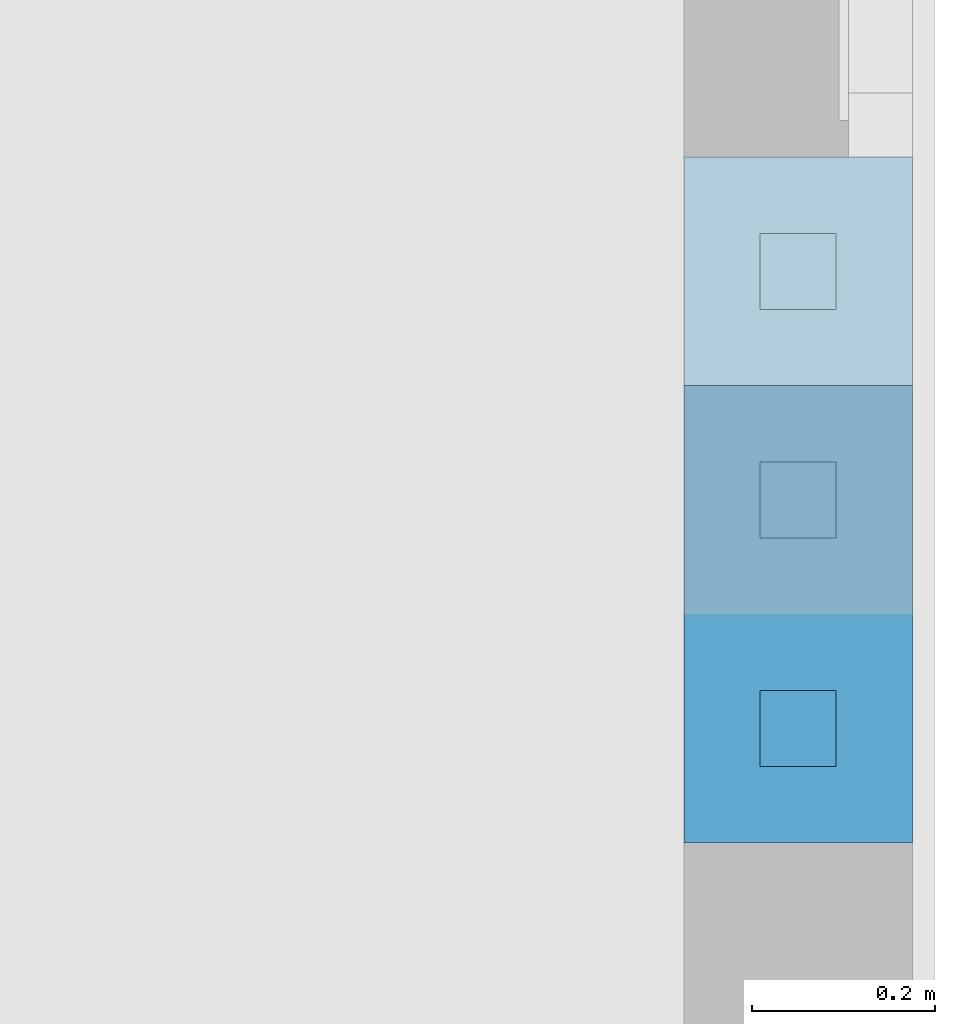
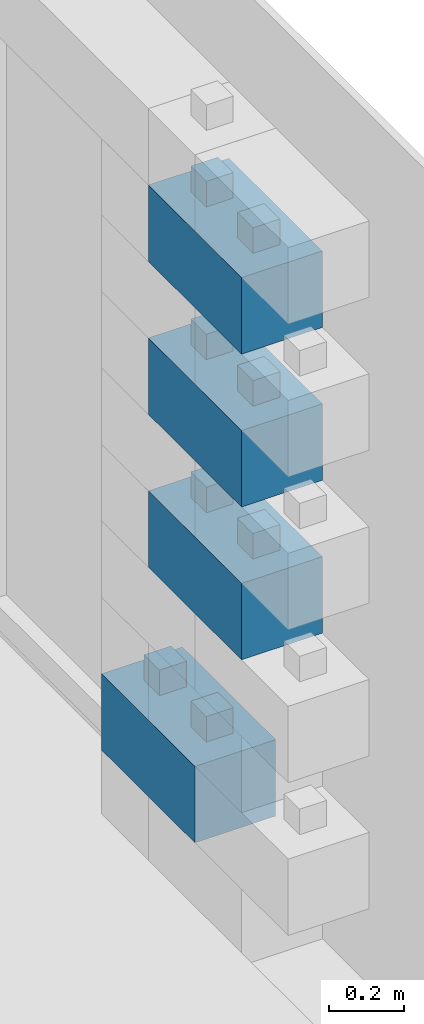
# One storey, part 3 of 8: 4 walls.
"""IFC4 building model written with IfcOpenShell, lengths in centimetres."""

from ifc_helpers import new_model, entity, si_unit, converted_unit, direction, frame, origin, place, context, subcontext, project, spatial, indexed_curve, outline, extrude, material, type_object, element, save


model = new_model("IFC4")

# Units and contexts
model_context = context("Model", 3, precision=0.001, world=origin(), true_north=direction((0.0, 1.0)))
body_context = subcontext(model_context, "Body", "Model", "MODEL_VIEW")
ifc_project = project(units=[si_unit("LENGTHUNIT", "METRE", prefix="CENTI"), si_unit("AREAUNIT", "SQUARE_METRE"), si_unit("VOLUMEUNIT", "CUBIC_METRE"), converted_unit("PLANEANGLEUNIT", "DEGREE", entity("IfcPlaneAngleMeasure", 0.017453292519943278), si_unit("PLANEANGLEUNIT", "RADIAN"), dimensions=[0, 0, 0, 0, 0, 0, 0])], contexts=[model_context])

# Site, building, storey
site_placement = place(None, origin())
site = spatial("IfcSite", under=ifc_project, at=site_placement, Name="Default", CompositionType="ELEMENT")
building_placement = place(site_placement, origin())
building = spatial("IfcBuilding", under=site, at=building_placement, CompositionType="ELEMENT")
storey_placement = place(building_placement, frame((0.0, 0.0, -4.0)))
storey = spatial("IfcBuildingStorey", under=building, at=storey_placement, Name="L00__ABOVE Slab", CompositionType="ELEMENT", Elevation=-4.000000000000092)

# Walls
ifc_material = material(Name="Miscellaneous__Timber Block__Triqbriq, X", Category="Miscellaneous")
wall_type = type_object("IfcWallType", Name="Columns : wll_s__TIMBER BLOCK__Triqbriq, Full Width__wp : WS25", PredefinedType="SOLIDWALL", material=ifc_material)
wall_1_placement = place(storey_placement, frame((3156.828914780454, 2253.5200309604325, 25.0), z_axis=(0.0, 0.0, 1.0), x_axis=(0.0, 1.0, 0.0)))
element("IfcWall", 1, at=wall_1_placement, inside=storey, type_object=wall_type, material=ifc_material, Name="Columns : wll_s__TIMBER BLOCK__Triqbriq, Full Width__wp : WS25", PredefinedType="SOLIDWALL", context=body_context, shape_type="SweptSolid", body=[
    extrude(outline(indexed_curve([(-4.166666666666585, -4.166666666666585), (4.166666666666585, -4.166666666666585), (4.166666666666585, 4.166666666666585), (-4.166666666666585, 4.166666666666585), (-4.166666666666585, -4.166666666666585)], self_intersect=False)), frame((12.500000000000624, -12.500000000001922, 16.66666666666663)), (0.0, 0.0, 1.0), 16.666666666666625),
    extrude(outline(indexed_curve([(-4.166666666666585, -4.166666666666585), (4.166666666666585, -4.166666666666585), (4.166666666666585, 4.166666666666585), (-4.166666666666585, 4.166666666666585), (-4.166666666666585, -4.166666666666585)], self_intersect=False)), frame((37.50000000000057, -12.500000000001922, 16.66666666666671)), (0.0, 0.0, 1.0), 16.666666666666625),
    extrude(outline(indexed_curve([(-4.166666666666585, -4.166666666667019), (4.166666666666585, -4.166666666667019), (4.166666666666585, 4.166666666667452), (-4.166666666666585, 4.166666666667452), (-4.166666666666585, -4.166666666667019)], self_intersect=False)), frame((4.166666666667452, -4.166666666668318, 8.33333333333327)), (0.0, 0.0, 1.0), 8.333333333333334),
    extrude(outline(indexed_curve([(-4.166666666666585, -4.166666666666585), (4.166666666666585, -4.166666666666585), (4.166666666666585, 4.166666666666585), (-4.166666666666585, 4.166666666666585), (-4.166666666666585, -4.166666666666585)], self_intersect=False)), frame((4.166666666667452, -20.833333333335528, 8.33333333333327)), (0.0, 0.0, 1.0), 8.333333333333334),
    extrude(outline(indexed_curve([(-4.166666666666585, -4.166666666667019), (4.166666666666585, -4.166666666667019), (4.166666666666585, 4.166666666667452), (-4.166666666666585, 4.166666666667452), (-4.166666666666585, -4.166666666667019)], self_intersect=False)), frame((45.833333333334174, -4.166666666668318, 8.333333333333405)), (0.0, 0.0, 1.0), 8.333333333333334),
    extrude(outline(indexed_curve([(-4.166666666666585, -4.166666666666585), (4.166666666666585, -4.166666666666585), (4.166666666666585, 4.166666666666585), (-4.166666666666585, 4.166666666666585), (-4.166666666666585, -4.166666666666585)], self_intersect=False)), frame((45.833333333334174, -20.833333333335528, 8.333333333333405)), (0.0, 0.0, 1.0), 8.333333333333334),
    extrude(outline(indexed_curve([(-8.333333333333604, -4.166666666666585), (8.33333333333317, -4.166666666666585), (8.33333333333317, 4.166666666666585), (-8.333333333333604, 4.166666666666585), (-8.333333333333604, -4.166666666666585)], self_intersect=False)), frame((25.0, -20.833333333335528, 8.333333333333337)), (0.0, 0.0, 1.0), 8.333333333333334),
    extrude(outline(indexed_curve([(-8.333333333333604, -4.166666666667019), (8.33333333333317, -4.166666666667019), (8.33333333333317, 4.166666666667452), (-8.333333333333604, 4.166666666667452), (-8.333333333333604, -4.166666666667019)], self_intersect=False)), frame((25.0, -4.166666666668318, 8.333333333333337)), (0.0, 0.0, 1.0), 8.333333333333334),
    extrude(outline(indexed_curve([(-24.999999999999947, -4.166666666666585), (24.999999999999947, -4.166666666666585), (24.999999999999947, 4.166666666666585), (-24.999999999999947, 4.166666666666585), (-24.999999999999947, -4.166666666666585)], self_intersect=False)), frame((25.0, -12.500000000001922, 8.333333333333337)), (0.0, 0.0, 1.0), 8.333333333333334),
    extrude(outline(indexed_curve([(-4.166666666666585, -12.50000000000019), (4.166666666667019, -12.50000000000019), (4.166666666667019, 12.500000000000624), (-4.166666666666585, 12.500000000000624), (-4.166666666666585, -12.50000000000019)], self_intersect=False)), frame((20.83333333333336, -12.500000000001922, 0.0)), (0.0, 0.0, 1.0), 8.333333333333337),
    extrude(outline(indexed_curve([(-4.166666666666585, -12.50000000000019), (4.166666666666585, -12.50000000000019), (4.166666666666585, 12.500000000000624), (-4.166666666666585, 12.500000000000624), (-4.166666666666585, -12.50000000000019)], self_intersect=False)), frame((29.166666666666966, -12.500000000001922, 0.0)), (0.0, 0.0, 1.0), 8.333333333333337),
    extrude(outline(indexed_curve([(-4.166666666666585, -12.50000000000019), (4.166666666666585, -12.50000000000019), (4.166666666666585, 12.500000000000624), (-4.166666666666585, 12.500000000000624), (-4.166666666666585, -12.50000000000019)], self_intersect=False)), frame((4.166666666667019, -12.500000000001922, 0.0)), (0.0, 0.0, 1.0), 8.333333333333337),
    extrude(outline(indexed_curve([(-4.166666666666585, -12.50000000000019), (4.166666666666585, -12.50000000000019), (4.166666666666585, 12.500000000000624), (-4.166666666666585, 12.500000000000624), (-4.166666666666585, -12.50000000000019)], self_intersect=False)), frame((45.83333333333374, -12.500000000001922, 0.0)), (0.0, 0.0, 1.0), 8.333333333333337),
    extrude(outline(indexed_curve([(-4.166666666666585, -4.166666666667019), (4.166666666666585, -4.166666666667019), (4.166666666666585, 4.166666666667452), (-4.166666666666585, 4.166666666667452), (-4.166666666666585, -4.166666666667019)], self_intersect=False)), frame((12.50000000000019, -4.166666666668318, 0.0)), (0.0, 0.0, 1.0), 24.99999999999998),
    extrude(outline(indexed_curve([(-4.166666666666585, -4.166666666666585), (4.166666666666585, -4.166666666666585), (4.166666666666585, 4.166666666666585), (-4.166666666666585, 4.166666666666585), (-4.166666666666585, -4.166666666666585)], self_intersect=False)), frame((12.50000000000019, -20.833333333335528, 0.0)), (0.0, 0.0, 1.0), 24.99999999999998),
    extrude(outline(indexed_curve([(-4.166666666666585, -4.166666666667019), (4.166666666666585, -4.166666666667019), (4.166666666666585, 4.166666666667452), (-4.166666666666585, 4.166666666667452), (-4.166666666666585, -4.166666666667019)], self_intersect=False)), frame((37.500000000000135, -4.166666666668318, 0.0)), (0.0, 0.0, 1.0), 24.99999999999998),
    extrude(outline(indexed_curve([(-4.166666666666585, -4.166666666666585), (4.166666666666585, -4.166666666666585), (4.166666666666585, 4.166666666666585), (-4.166666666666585, 4.166666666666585), (-4.166666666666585, -4.166666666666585)], self_intersect=False)), frame((37.500000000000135, -20.833333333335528, 0.0)), (0.0, 0.0, 1.0), 24.99999999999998),
    extrude(outline(indexed_curve([(-4.166666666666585, -12.50000000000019), (4.166666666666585, -12.50000000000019), (4.166666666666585, 12.500000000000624), (-4.166666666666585, 12.500000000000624), (-4.166666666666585, -12.50000000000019)], self_intersect=False)), frame((4.166666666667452, -12.500000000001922, 16.666666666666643)), (0.0, 0.0, 1.0), 8.333333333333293),
    extrude(outline(indexed_curve([(-4.166666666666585, -12.50000000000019), (4.166666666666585, -12.50000000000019), (4.166666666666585, 12.500000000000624), (-4.166666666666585, 12.500000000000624), (-4.166666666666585, -12.50000000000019)], self_intersect=False)), frame((20.833333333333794, -12.500000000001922, 16.666666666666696)), (0.0, 0.0, 1.0), 8.333333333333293),
    extrude(outline(indexed_curve([(-4.166666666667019, -12.50000000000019), (4.166666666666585, -12.50000000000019), (4.166666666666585, 12.500000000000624), (-4.166666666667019, 12.500000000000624), (-4.166666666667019, -12.50000000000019)], self_intersect=False)), frame((29.1666666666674, -12.500000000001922, 16.666666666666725)), (0.0, 0.0, 1.0), 8.333333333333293),
    extrude(outline(indexed_curve([(-4.166666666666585, -12.50000000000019), (4.166666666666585, -12.50000000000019), (4.166666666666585, 12.500000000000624), (-4.166666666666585, 12.500000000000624), (-4.166666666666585, -12.50000000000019)], self_intersect=False)), frame((45.833333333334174, -12.500000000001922, 16.666666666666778)), (0.0, 0.0, 1.0), 8.333333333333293),
])
wall_2_placement = place(storey_placement, frame((3156.828914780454, 2228.52003096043, 200.0), z_axis=(0.0, 0.0, 1.0), x_axis=(0.0, 1.0, 0.0)))
element("IfcWall", 2, at=wall_2_placement, inside=storey, type_object=wall_type, material=ifc_material, Name="Columns : wll_s__TIMBER BLOCK__Triqbriq, Full Width__wp : WS25", PredefinedType="SOLIDWALL", context=body_context, shape_type="SweptSolid", body=[
    extrude(outline(indexed_curve([(-4.166666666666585, -4.166666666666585), (4.166666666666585, -4.166666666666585), (4.166666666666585, 4.166666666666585), (-4.166666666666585, 4.166666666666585), (-4.166666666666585, -4.166666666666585)], self_intersect=False)), frame((12.500000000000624, -12.500000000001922, 16.666666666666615)), (0.0, 0.0, 1.0), 16.66666666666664),
    extrude(outline(indexed_curve([(-4.166666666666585, -4.166666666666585), (4.166666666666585, -4.166666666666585), (4.166666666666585, 4.166666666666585), (-4.166666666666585, 4.166666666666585), (-4.166666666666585, -4.166666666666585)], self_intersect=False)), frame((37.50000000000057, -12.500000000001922, 16.66666666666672)), (0.0, 0.0, 1.0), 16.66666666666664),
    extrude(outline(indexed_curve([(-4.166666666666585, -4.166666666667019), (4.166666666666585, -4.166666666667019), (4.166666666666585, 4.166666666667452), (-4.166666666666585, 4.166666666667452), (-4.166666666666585, -4.166666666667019)], self_intersect=False)), frame((4.166666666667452, -4.166666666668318, 8.333333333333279)), (0.0, 0.0, 1.0), 8.333333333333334),
    extrude(outline(indexed_curve([(-4.166666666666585, -4.166666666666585), (4.166666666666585, -4.166666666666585), (4.166666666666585, 4.166666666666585), (-4.166666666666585, 4.166666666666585), (-4.166666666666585, -4.166666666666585)], self_intersect=False)), frame((4.166666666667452, -20.833333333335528, 8.333333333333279)), (0.0, 0.0, 1.0), 8.333333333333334),
    extrude(outline(indexed_curve([(-4.166666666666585, -4.166666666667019), (4.166666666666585, -4.166666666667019), (4.166666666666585, 4.166666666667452), (-4.166666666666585, 4.166666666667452), (-4.166666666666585, -4.166666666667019)], self_intersect=False)), frame((45.833333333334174, -4.166666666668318, 8.333333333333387)), (0.0, 0.0, 1.0), 8.333333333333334),
    extrude(outline(indexed_curve([(-4.166666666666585, -4.166666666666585), (4.166666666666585, -4.166666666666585), (4.166666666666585, 4.166666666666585), (-4.166666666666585, 4.166666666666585), (-4.166666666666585, -4.166666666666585)], self_intersect=False)), frame((45.833333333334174, -20.833333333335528, 8.333333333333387)), (0.0, 0.0, 1.0), 8.333333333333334),
    extrude(outline(indexed_curve([(-8.33333333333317, -4.166666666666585), (8.333333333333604, -4.166666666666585), (8.333333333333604, 4.166666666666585), (-8.33333333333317, 4.166666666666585), (-8.33333333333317, -4.166666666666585)], self_intersect=False)), frame((25.0, -20.833333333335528, 8.333333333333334)), (0.0, 0.0, 1.0), 8.333333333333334),
    extrude(outline(indexed_curve([(-8.33333333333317, -4.166666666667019), (8.333333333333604, -4.166666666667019), (8.333333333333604, 4.166666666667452), (-8.33333333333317, 4.166666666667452), (-8.33333333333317, -4.166666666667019)], self_intersect=False)), frame((25.0, -4.166666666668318, 8.333333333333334)), (0.0, 0.0, 1.0), 8.333333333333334),
    extrude(outline(indexed_curve([(-24.999999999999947, -4.166666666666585), (24.999999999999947, -4.166666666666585), (24.999999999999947, 4.166666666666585), (-24.999999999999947, 4.166666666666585), (-24.999999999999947, -4.166666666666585)], self_intersect=False)), frame((25.0, -12.500000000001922, 8.333333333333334)), (0.0, 0.0, 1.0), 8.333333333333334),
    extrude(outline(indexed_curve([(-4.166666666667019, -12.50000000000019), (4.166666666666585, -12.50000000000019), (4.166666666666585, 12.500000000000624), (-4.166666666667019, 12.500000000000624), (-4.166666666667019, -12.50000000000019)], self_intersect=False)), frame((20.833333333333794, -12.500000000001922, 0.0)), (0.0, 0.0, 1.0), 8.333333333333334),
    extrude(outline(indexed_curve([(-4.166666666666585, -12.50000000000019), (4.166666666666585, -12.50000000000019), (4.166666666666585, 12.500000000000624), (-4.166666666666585, 12.500000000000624), (-4.166666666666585, -12.50000000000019)], self_intersect=False)), frame((29.166666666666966, -12.500000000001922, 0.0)), (0.0, 0.0, 1.0), 8.333333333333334),
    extrude(outline(indexed_curve([(-4.166666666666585, -12.50000000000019), (4.166666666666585, -12.50000000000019), (4.166666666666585, 12.500000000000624), (-4.166666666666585, 12.500000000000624), (-4.166666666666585, -12.50000000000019)], self_intersect=False)), frame((4.166666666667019, -12.500000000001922, 0.0)), (0.0, 0.0, 1.0), 8.333333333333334),
    extrude(outline(indexed_curve([(-4.166666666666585, -12.50000000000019), (4.166666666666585, -12.50000000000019), (4.166666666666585, 12.500000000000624), (-4.166666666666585, 12.500000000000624), (-4.166666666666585, -12.50000000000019)], self_intersect=False)), frame((45.83333333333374, -12.500000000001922, 0.0)), (0.0, 0.0, 1.0), 8.333333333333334),
    extrude(outline(indexed_curve([(-4.166666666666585, -4.166666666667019), (4.166666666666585, -4.166666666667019), (4.166666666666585, 4.166666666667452), (-4.166666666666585, 4.166666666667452), (-4.166666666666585, -4.166666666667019)], self_intersect=False)), frame((12.50000000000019, -4.166666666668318, 0.0)), (0.0, 0.0, 1.0), 24.999999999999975),
    extrude(outline(indexed_curve([(-4.166666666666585, -4.166666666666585), (4.166666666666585, -4.166666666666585), (4.166666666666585, 4.166666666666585), (-4.166666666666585, 4.166666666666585), (-4.166666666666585, -4.166666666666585)], self_intersect=False)), frame((12.50000000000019, -20.833333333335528, 0.0)), (0.0, 0.0, 1.0), 24.999999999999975),
    extrude(outline(indexed_curve([(-4.166666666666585, -4.166666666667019), (4.166666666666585, -4.166666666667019), (4.166666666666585, 4.166666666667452), (-4.166666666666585, 4.166666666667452), (-4.166666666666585, -4.166666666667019)], self_intersect=False)), frame((37.500000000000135, -4.166666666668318, 0.0)), (0.0, 0.0, 1.0), 24.999999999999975),
    extrude(outline(indexed_curve([(-4.166666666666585, -4.166666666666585), (4.166666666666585, -4.166666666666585), (4.166666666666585, 4.166666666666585), (-4.166666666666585, 4.166666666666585), (-4.166666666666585, -4.166666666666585)], self_intersect=False)), frame((37.500000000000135, -20.833333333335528, 0.0)), (0.0, 0.0, 1.0), 24.999999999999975),
    extrude(outline(indexed_curve([(-4.166666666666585, -12.50000000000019), (4.166666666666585, -12.50000000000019), (4.166666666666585, 12.500000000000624), (-4.166666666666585, 12.500000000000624), (-4.166666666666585, -12.50000000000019)], self_intersect=False)), frame((4.166666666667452, -12.500000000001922, 16.666666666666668)), (0.0, 0.0, 1.0), 8.333333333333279),
    extrude(outline(indexed_curve([(-4.166666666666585, -12.50000000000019), (4.166666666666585, -12.50000000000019), (4.166666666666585, 12.500000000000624), (-4.166666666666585, 12.500000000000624), (-4.166666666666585, -12.50000000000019)], self_intersect=False)), frame((20.833333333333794, -12.500000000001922, 16.66666666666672)), (0.0, 0.0, 1.0), 8.333333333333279),
    extrude(outline(indexed_curve([(-4.166666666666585, -12.50000000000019), (4.166666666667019, -12.50000000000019), (4.166666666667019, 12.500000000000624), (-4.166666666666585, 12.500000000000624), (-4.166666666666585, -12.50000000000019)], self_intersect=False)), frame((29.166666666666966, -12.500000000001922, 16.66666666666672)), (0.0, 0.0, 1.0), 8.333333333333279),
    extrude(outline(indexed_curve([(-4.166666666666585, -12.50000000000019), (4.166666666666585, -12.50000000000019), (4.166666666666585, 12.500000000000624), (-4.166666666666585, 12.500000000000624), (-4.166666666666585, -12.50000000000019)], self_intersect=False)), frame((45.833333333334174, -12.500000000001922, 16.666666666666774)), (0.0, 0.0, 1.0), 8.333333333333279),
])
wall_3_placement = place(storey_placement, frame((3156.8289147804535, 2228.52003096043, 150.0), z_axis=(0.0, 0.0, 1.0), x_axis=(0.0, 1.0, 0.0)))
element("IfcWall", 3, at=wall_3_placement, inside=storey, type_object=wall_type, material=ifc_material, Name="Columns : wll_s__TIMBER BLOCK__Triqbriq, Full Width__wp : WS25", PredefinedType="SOLIDWALL", context=body_context, shape_type="SweptSolid", body=[
    extrude(outline(indexed_curve([(-4.166666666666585, -4.166666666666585), (4.166666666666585, -4.166666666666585), (4.166666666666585, 4.166666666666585), (-4.166666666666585, 4.166666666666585), (-4.166666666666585, -4.166666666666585)], self_intersect=False)), frame((12.500000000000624, -12.500000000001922, 16.666666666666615)), (0.0, 0.0, 1.0), 16.66666666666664),
    extrude(outline(indexed_curve([(-4.166666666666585, -4.166666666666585), (4.166666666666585, -4.166666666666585), (4.166666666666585, 4.166666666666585), (-4.166666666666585, 4.166666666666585), (-4.166666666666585, -4.166666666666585)], self_intersect=False)), frame((37.50000000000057, -12.500000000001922, 16.66666666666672)), (0.0, 0.0, 1.0), 16.66666666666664),
    extrude(outline(indexed_curve([(-4.166666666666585, -4.166666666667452), (4.166666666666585, -4.166666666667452), (4.166666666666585, 4.166666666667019), (-4.166666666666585, 4.166666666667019), (-4.166666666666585, -4.166666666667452)], self_intersect=False)), frame((4.166666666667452, -4.166666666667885, 8.333333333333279)), (0.0, 0.0, 1.0), 8.333333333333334),
    extrude(outline(indexed_curve([(-4.166666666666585, -4.166666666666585), (4.166666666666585, -4.166666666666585), (4.166666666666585, 4.166666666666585), (-4.166666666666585, 4.166666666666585), (-4.166666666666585, -4.166666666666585)], self_intersect=False)), frame((4.166666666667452, -20.833333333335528, 8.333333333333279)), (0.0, 0.0, 1.0), 8.333333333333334),
    extrude(outline(indexed_curve([(-4.166666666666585, -4.166666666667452), (4.166666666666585, -4.166666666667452), (4.166666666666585, 4.166666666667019), (-4.166666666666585, 4.166666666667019), (-4.166666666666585, -4.166666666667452)], self_intersect=False)), frame((45.833333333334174, -4.166666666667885, 8.333333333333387)), (0.0, 0.0, 1.0), 8.333333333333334),
    extrude(outline(indexed_curve([(-4.166666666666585, -4.166666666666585), (4.166666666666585, -4.166666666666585), (4.166666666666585, 4.166666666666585), (-4.166666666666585, 4.166666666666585), (-4.166666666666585, -4.166666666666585)], self_intersect=False)), frame((45.833333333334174, -20.833333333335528, 8.333333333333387)), (0.0, 0.0, 1.0), 8.333333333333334),
    extrude(outline(indexed_curve([(-8.33333333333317, -4.166666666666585), (8.333333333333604, -4.166666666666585), (8.333333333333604, 4.166666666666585), (-8.33333333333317, 4.166666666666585), (-8.33333333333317, -4.166666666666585)], self_intersect=False)), frame((25.0, -20.833333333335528, 8.333333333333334)), (0.0, 0.0, 1.0), 8.333333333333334),
    extrude(outline(indexed_curve([(-8.33333333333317, -4.166666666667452), (8.333333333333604, -4.166666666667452), (8.333333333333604, 4.166666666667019), (-8.33333333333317, 4.166666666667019), (-8.33333333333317, -4.166666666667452)], self_intersect=False)), frame((25.0, -4.166666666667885, 8.333333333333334)), (0.0, 0.0, 1.0), 8.333333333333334),
    extrude(outline(indexed_curve([(-24.999999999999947, -4.166666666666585), (24.999999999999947, -4.166666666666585), (24.999999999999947, 4.166666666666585), (-24.999999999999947, 4.166666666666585), (-24.999999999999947, -4.166666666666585)], self_intersect=False)), frame((25.0, -12.500000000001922, 8.333333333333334)), (0.0, 0.0, 1.0), 8.333333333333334),
    extrude(outline(indexed_curve([(-4.166666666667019, -12.50000000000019), (4.166666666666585, -12.50000000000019), (4.166666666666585, 12.500000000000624), (-4.166666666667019, 12.500000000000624), (-4.166666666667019, -12.50000000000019)], self_intersect=False)), frame((20.833333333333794, -12.500000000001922, 0.0)), (0.0, 0.0, 1.0), 8.333333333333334),
    extrude(outline(indexed_curve([(-4.166666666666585, -12.50000000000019), (4.166666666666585, -12.50000000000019), (4.166666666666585, 12.500000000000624), (-4.166666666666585, 12.500000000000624), (-4.166666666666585, -12.50000000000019)], self_intersect=False)), frame((29.166666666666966, -12.500000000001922, 0.0)), (0.0, 0.0, 1.0), 8.333333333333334),
    extrude(outline(indexed_curve([(-4.166666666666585, -12.50000000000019), (4.166666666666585, -12.50000000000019), (4.166666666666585, 12.500000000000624), (-4.166666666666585, 12.500000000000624), (-4.166666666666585, -12.50000000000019)], self_intersect=False)), frame((4.166666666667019, -12.500000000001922, 0.0)), (0.0, 0.0, 1.0), 8.333333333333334),
    extrude(outline(indexed_curve([(-4.166666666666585, -12.50000000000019), (4.166666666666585, -12.50000000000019), (4.166666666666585, 12.500000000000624), (-4.166666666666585, 12.500000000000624), (-4.166666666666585, -12.50000000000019)], self_intersect=False)), frame((45.83333333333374, -12.500000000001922, 0.0)), (0.0, 0.0, 1.0), 8.333333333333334),
    extrude(outline(indexed_curve([(-4.166666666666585, -4.166666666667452), (4.166666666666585, -4.166666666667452), (4.166666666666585, 4.166666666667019), (-4.166666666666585, 4.166666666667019), (-4.166666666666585, -4.166666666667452)], self_intersect=False)), frame((12.50000000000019, -4.166666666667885, 0.0)), (0.0, 0.0, 1.0), 24.999999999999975),
    extrude(outline(indexed_curve([(-4.166666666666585, -4.166666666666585), (4.166666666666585, -4.166666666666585), (4.166666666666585, 4.166666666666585), (-4.166666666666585, 4.166666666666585), (-4.166666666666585, -4.166666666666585)], self_intersect=False)), frame((12.50000000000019, -20.833333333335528, 0.0)), (0.0, 0.0, 1.0), 24.999999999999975),
    extrude(outline(indexed_curve([(-4.166666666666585, -4.166666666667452), (4.166666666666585, -4.166666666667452), (4.166666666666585, 4.166666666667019), (-4.166666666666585, 4.166666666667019), (-4.166666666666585, -4.166666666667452)], self_intersect=False)), frame((37.500000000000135, -4.166666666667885, 0.0)), (0.0, 0.0, 1.0), 24.999999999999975),
    extrude(outline(indexed_curve([(-4.166666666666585, -4.166666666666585), (4.166666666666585, -4.166666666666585), (4.166666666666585, 4.166666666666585), (-4.166666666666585, 4.166666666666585), (-4.166666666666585, -4.166666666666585)], self_intersect=False)), frame((37.500000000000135, -20.833333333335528, 0.0)), (0.0, 0.0, 1.0), 24.999999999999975),
    extrude(outline(indexed_curve([(-4.166666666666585, -12.50000000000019), (4.166666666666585, -12.50000000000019), (4.166666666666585, 12.500000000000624), (-4.166666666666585, 12.500000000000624), (-4.166666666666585, -12.50000000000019)], self_intersect=False)), frame((4.166666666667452, -12.500000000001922, 16.666666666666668)), (0.0, 0.0, 1.0), 8.333333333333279),
    extrude(outline(indexed_curve([(-4.166666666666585, -12.50000000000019), (4.166666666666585, -12.50000000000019), (4.166666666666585, 12.500000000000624), (-4.166666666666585, 12.500000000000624), (-4.166666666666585, -12.50000000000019)], self_intersect=False)), frame((20.833333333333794, -12.500000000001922, 16.66666666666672)), (0.0, 0.0, 1.0), 8.333333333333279),
    extrude(outline(indexed_curve([(-4.166666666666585, -12.50000000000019), (4.166666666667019, -12.50000000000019), (4.166666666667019, 12.500000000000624), (-4.166666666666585, 12.500000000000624), (-4.166666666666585, -12.50000000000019)], self_intersect=False)), frame((29.166666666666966, -12.500000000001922, 16.66666666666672)), (0.0, 0.0, 1.0), 8.333333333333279),
    extrude(outline(indexed_curve([(-4.166666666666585, -12.50000000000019), (4.166666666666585, -12.50000000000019), (4.166666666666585, 12.500000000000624), (-4.166666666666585, 12.500000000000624), (-4.166666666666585, -12.50000000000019)], self_intersect=False)), frame((45.833333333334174, -12.500000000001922, 16.666666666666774)), (0.0, 0.0, 1.0), 8.333333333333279),
])
wall_4_placement = place(storey_placement, frame((3156.8289147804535, 2228.52003096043, 100.0), z_axis=(0.0, 0.0, 1.0), x_axis=(0.0, 1.0, 0.0)))
element("IfcWall", 4, at=wall_4_placement, inside=storey, type_object=wall_type, material=ifc_material, Name="Columns : wll_s__TIMBER BLOCK__Triqbriq, Full Width__wp : WS25", PredefinedType="SOLIDWALL", context=body_context, shape_type="SweptSolid", body=[
    extrude(outline(indexed_curve([(-4.166666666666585, -4.166666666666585), (4.166666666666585, -4.166666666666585), (4.166666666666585, 4.166666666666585), (-4.166666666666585, 4.166666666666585), (-4.166666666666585, -4.166666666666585)], self_intersect=False)), frame((12.500000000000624, -12.500000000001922, 16.666666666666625)), (0.0, 0.0, 1.0), 16.666666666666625),
    extrude(outline(indexed_curve([(-4.166666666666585, -4.166666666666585), (4.166666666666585, -4.166666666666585), (4.166666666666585, 4.166666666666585), (-4.166666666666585, 4.166666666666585), (-4.166666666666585, -4.166666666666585)], self_intersect=False)), frame((37.50000000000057, -12.500000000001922, 16.66666666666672)), (0.0, 0.0, 1.0), 16.666666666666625),
    extrude(outline(indexed_curve([(-4.166666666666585, -4.166666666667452), (4.166666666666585, -4.166666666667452), (4.166666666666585, 4.166666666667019), (-4.166666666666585, 4.166666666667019), (-4.166666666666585, -4.166666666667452)], self_intersect=False)), frame((4.166666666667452, -4.166666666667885, 8.333333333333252)), (0.0, 0.0, 1.0), 8.333333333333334),
    extrude(outline(indexed_curve([(-4.166666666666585, -4.166666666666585), (4.166666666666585, -4.166666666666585), (4.166666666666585, 4.166666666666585), (-4.166666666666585, 4.166666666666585), (-4.166666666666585, -4.166666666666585)], self_intersect=False)), frame((4.166666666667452, -20.833333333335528, 8.333333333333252)), (0.0, 0.0, 1.0), 8.333333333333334),
    extrude(outline(indexed_curve([(-4.166666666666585, -4.166666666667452), (4.166666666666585, -4.166666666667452), (4.166666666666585, 4.166666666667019), (-4.166666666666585, 4.166666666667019), (-4.166666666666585, -4.166666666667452)], self_intersect=False)), frame((45.833333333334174, -4.166666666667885, 8.333333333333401)), (0.0, 0.0, 1.0), 8.333333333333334),
    extrude(outline(indexed_curve([(-4.166666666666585, -4.166666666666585), (4.166666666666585, -4.166666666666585), (4.166666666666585, 4.166666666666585), (-4.166666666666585, 4.166666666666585), (-4.166666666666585, -4.166666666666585)], self_intersect=False)), frame((45.833333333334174, -20.833333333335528, 8.333333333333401)), (0.0, 0.0, 1.0), 8.333333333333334),
    extrude(outline(indexed_curve([(-8.33333333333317, -4.166666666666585), (8.333333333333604, -4.166666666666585), (8.333333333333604, 4.166666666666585), (-8.33333333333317, 4.166666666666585), (-8.33333333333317, -4.166666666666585)], self_intersect=False)), frame((25.0, -20.833333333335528, 8.333333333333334)), (0.0, 0.0, 1.0), 8.333333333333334),
    extrude(outline(indexed_curve([(-8.33333333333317, -4.166666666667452), (8.333333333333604, -4.166666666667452), (8.333333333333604, 4.166666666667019), (-8.33333333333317, 4.166666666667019), (-8.33333333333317, -4.166666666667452)], self_intersect=False)), frame((25.0, -4.166666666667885, 8.333333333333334)), (0.0, 0.0, 1.0), 8.333333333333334),
    extrude(outline(indexed_curve([(-24.999999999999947, -4.166666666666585), (24.999999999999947, -4.166666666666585), (24.999999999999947, 4.166666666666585), (-24.999999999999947, 4.166666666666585), (-24.999999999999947, -4.166666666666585)], self_intersect=False)), frame((25.0, -12.500000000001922, 8.333333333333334)), (0.0, 0.0, 1.0), 8.333333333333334),
    extrude(outline(indexed_curve([(-4.166666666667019, -12.50000000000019), (4.166666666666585, -12.50000000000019), (4.166666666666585, 12.500000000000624), (-4.166666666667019, 12.500000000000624), (-4.166666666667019, -12.50000000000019)], self_intersect=False)), frame((20.833333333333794, -12.500000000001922, 0.0)), (0.0, 0.0, 1.0), 8.333333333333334),
    extrude(outline(indexed_curve([(-4.166666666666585, -12.50000000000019), (4.166666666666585, -12.50000000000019), (4.166666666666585, 12.500000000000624), (-4.166666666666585, 12.500000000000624), (-4.166666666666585, -12.50000000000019)], self_intersect=False)), frame((29.166666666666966, -12.500000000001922, 0.0)), (0.0, 0.0, 1.0), 8.333333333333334),
    extrude(outline(indexed_curve([(-4.166666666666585, -12.50000000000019), (4.166666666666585, -12.50000000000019), (4.166666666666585, 12.500000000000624), (-4.166666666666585, 12.500000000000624), (-4.166666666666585, -12.50000000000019)], self_intersect=False)), frame((4.166666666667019, -12.500000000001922, 0.0)), (0.0, 0.0, 1.0), 8.333333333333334),
    extrude(outline(indexed_curve([(-4.166666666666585, -12.50000000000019), (4.166666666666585, -12.50000000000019), (4.166666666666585, 12.500000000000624), (-4.166666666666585, 12.500000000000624), (-4.166666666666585, -12.50000000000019)], self_intersect=False)), frame((45.83333333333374, -12.500000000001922, 0.0)), (0.0, 0.0, 1.0), 8.333333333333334),
    extrude(outline(indexed_curve([(-4.166666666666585, -4.166666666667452), (4.166666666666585, -4.166666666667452), (4.166666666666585, 4.166666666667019), (-4.166666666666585, 4.166666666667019), (-4.166666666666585, -4.166666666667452)], self_intersect=False)), frame((12.50000000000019, -4.166666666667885, 0.0)), (0.0, 0.0, 1.0), 24.999999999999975),
    extrude(outline(indexed_curve([(-4.166666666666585, -4.166666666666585), (4.166666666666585, -4.166666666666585), (4.166666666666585, 4.166666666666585), (-4.166666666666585, 4.166666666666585), (-4.166666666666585, -4.166666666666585)], self_intersect=False)), frame((12.50000000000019, -20.833333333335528, 0.0)), (0.0, 0.0, 1.0), 24.999999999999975),
    extrude(outline(indexed_curve([(-4.166666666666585, -4.166666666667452), (4.166666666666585, -4.166666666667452), (4.166666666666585, 4.166666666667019), (-4.166666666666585, 4.166666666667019), (-4.166666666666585, -4.166666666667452)], self_intersect=False)), frame((37.500000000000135, -4.166666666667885, 0.0)), (0.0, 0.0, 1.0), 24.999999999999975),
    extrude(outline(indexed_curve([(-4.166666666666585, -4.166666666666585), (4.166666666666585, -4.166666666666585), (4.166666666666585, 4.166666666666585), (-4.166666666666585, 4.166666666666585), (-4.166666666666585, -4.166666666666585)], self_intersect=False)), frame((37.500000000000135, -20.833333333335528, 0.0)), (0.0, 0.0, 1.0), 24.999999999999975),
    extrude(outline(indexed_curve([(-4.166666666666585, -12.50000000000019), (4.166666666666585, -12.50000000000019), (4.166666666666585, 12.500000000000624), (-4.166666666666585, 12.500000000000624), (-4.166666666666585, -12.50000000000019)], self_intersect=False)), frame((4.166666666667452, -12.500000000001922, 16.66666666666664)), (0.0, 0.0, 1.0), 8.333333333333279),
    extrude(outline(indexed_curve([(-4.166666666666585, -12.50000000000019), (4.166666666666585, -12.50000000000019), (4.166666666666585, 12.500000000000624), (-4.166666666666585, 12.500000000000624), (-4.166666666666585, -12.50000000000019)], self_intersect=False)), frame((20.833333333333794, -12.500000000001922, 16.66666666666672)), (0.0, 0.0, 1.0), 8.333333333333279),
    extrude(outline(indexed_curve([(-4.166666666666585, -12.50000000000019), (4.166666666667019, -12.50000000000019), (4.166666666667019, 12.500000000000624), (-4.166666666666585, 12.500000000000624), (-4.166666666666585, -12.50000000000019)], self_intersect=False)), frame((29.166666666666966, -12.500000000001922, 16.666666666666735)), (0.0, 0.0, 1.0), 8.333333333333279),
    extrude(outline(indexed_curve([(-4.166666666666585, -12.50000000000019), (4.166666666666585, -12.50000000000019), (4.166666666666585, 12.500000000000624), (-4.166666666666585, 12.500000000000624), (-4.166666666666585, -12.50000000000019)], self_intersect=False)), frame((45.833333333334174, -12.500000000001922, 16.66666666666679)), (0.0, 0.0, 1.0), 8.333333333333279),
])

save(model, "model.ifc")
